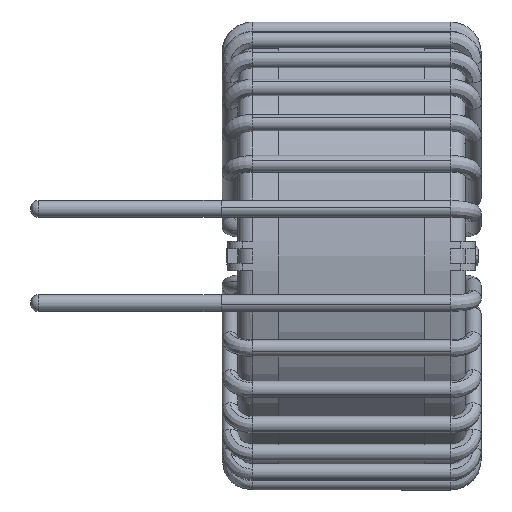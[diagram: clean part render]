
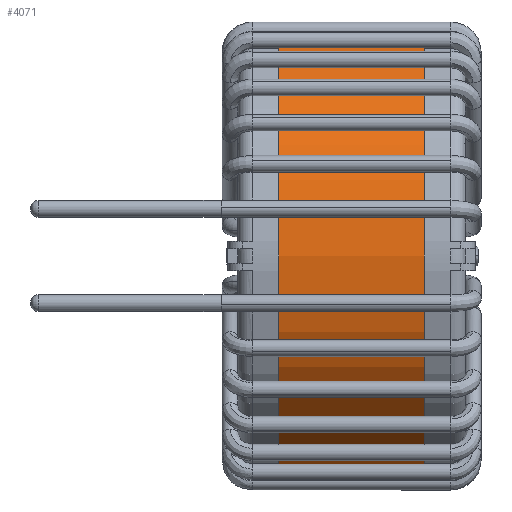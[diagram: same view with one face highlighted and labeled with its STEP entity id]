
A CAD part, left-side view. The second image highlights one B-rep face of the part: STEP entity #4071.
In plain terms, the highlighted cylindrical face has radius 15.197 mm (diameter 30.395 mm), a partial arc.
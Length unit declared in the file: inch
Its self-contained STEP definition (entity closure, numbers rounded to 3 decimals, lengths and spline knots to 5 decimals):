
#146 = CARTESIAN_POINT ( 'NONE',  ( 0., -0.19685, -0.59833 ) ) ;
#620 = VERTEX_POINT ( 'NONE', #26341 ) ;
#622 = VERTEX_POINT ( 'NONE', #146 ) ;
#1115 = CARTESIAN_POINT ( 'NONE',  ( 0., -0.19685, 0. ) ) ;
#2045 = EDGE_CURVE ( 'NONE', #622, #15041, #24849, .T. ) ;
#2292 = EDGE_CURVE ( 'NONE', #620, #15041, #31576, .T. ) ;
#3277 = DIRECTION ( 'NONE',  ( 0., 0., 1. ) ) ;
#4071 = ADVANCED_FACE ( 'NONE', ( #4265 ), #14414, .T. ) ;
#4265 = FACE_OUTER_BOUND ( 'NONE', #15838, .T. ) ;
#5964 = DIRECTION ( 'NONE',  ( 0., -1., 0. ) ) ;
#9074 = DIRECTION ( 'NONE',  ( 0., -1., 0. ) ) ;
#10566 = AXIS2_PLACEMENT_3D ( 'NONE', #31433, #13836, #20838 ) ;
#11502 = CARTESIAN_POINT ( 'NONE',  ( 0., -0.19685, 0.59833 ) ) ;
#13803 = CIRCLE ( 'NONE', #21665, 0.59833 ) ;
#13836 = DIRECTION ( 'NONE',  ( 0., -1., 0. ) ) ;
#14414 = CYLINDRICAL_SURFACE ( 'NONE', #10566, 0.59833 ) ;
#14585 = ORIENTED_EDGE ( 'NONE', *, *, #32198, .T. ) ;
#15041 = VERTEX_POINT ( 'NONE', #11502 ) ;
#15838 = EDGE_LOOP ( 'NONE', ( #32734, #22584, #14585, #27585 ) ) ;
#16386 = CARTESIAN_POINT ( 'NONE',  ( 0., 0.19685, -0.59833 ) ) ;
#17314 = VERTEX_POINT ( 'NONE', #16386 ) ;
#18718 = LINE ( 'NONE', #23527, #27223 ) ;
#19462 = EDGE_CURVE ( 'NONE', #17314, #620, #13803, .T. ) ;
#20838 = DIRECTION ( 'NONE',  ( 0., 0., -1. ) ) ;
#21665 = AXIS2_PLACEMENT_3D ( 'NONE', #24793, #28005, #32215 ) ;
#22584 = ORIENTED_EDGE ( 'NONE', *, *, #19462, .F. ) ;
#23527 = CARTESIAN_POINT ( 'NONE',  ( 0., 0.19685, -0.59833 ) ) ;
#23845 = AXIS2_PLACEMENT_3D ( 'NONE', #1115, #26261, #3277 ) ;
#24793 = CARTESIAN_POINT ( 'NONE',  ( 0., 0.19685, 0. ) ) ;
#24849 = CIRCLE ( 'NONE', #23845, 0.59833 ) ;
#25451 = VECTOR ( 'NONE', #5964, 39.37008 ) ;
#26261 = DIRECTION ( 'NONE',  ( 0., 1., 0. ) ) ;
#26341 = CARTESIAN_POINT ( 'NONE',  ( 0., 0.19685, 0.59833 ) ) ;
#27223 = VECTOR ( 'NONE', #9074, 39.37008 ) ;
#27585 = ORIENTED_EDGE ( 'NONE', *, *, #2045, .T. ) ;
#28005 = DIRECTION ( 'NONE',  ( 0., 1., 0. ) ) ;
#28417 = CARTESIAN_POINT ( 'NONE',  ( 0., 0.19685, 0.59833 ) ) ;
#31433 = CARTESIAN_POINT ( 'NONE',  ( 0., 0.19685, 0. ) ) ;
#31576 = LINE ( 'NONE', #28417, #25451 ) ;
#32198 = EDGE_CURVE ( 'NONE', #17314, #622, #18718, .T. ) ;
#32215 = DIRECTION ( 'NONE',  ( 0., 0., 1. ) ) ;
#32734 = ORIENTED_EDGE ( 'NONE', *, *, #2292, .F. ) ;
